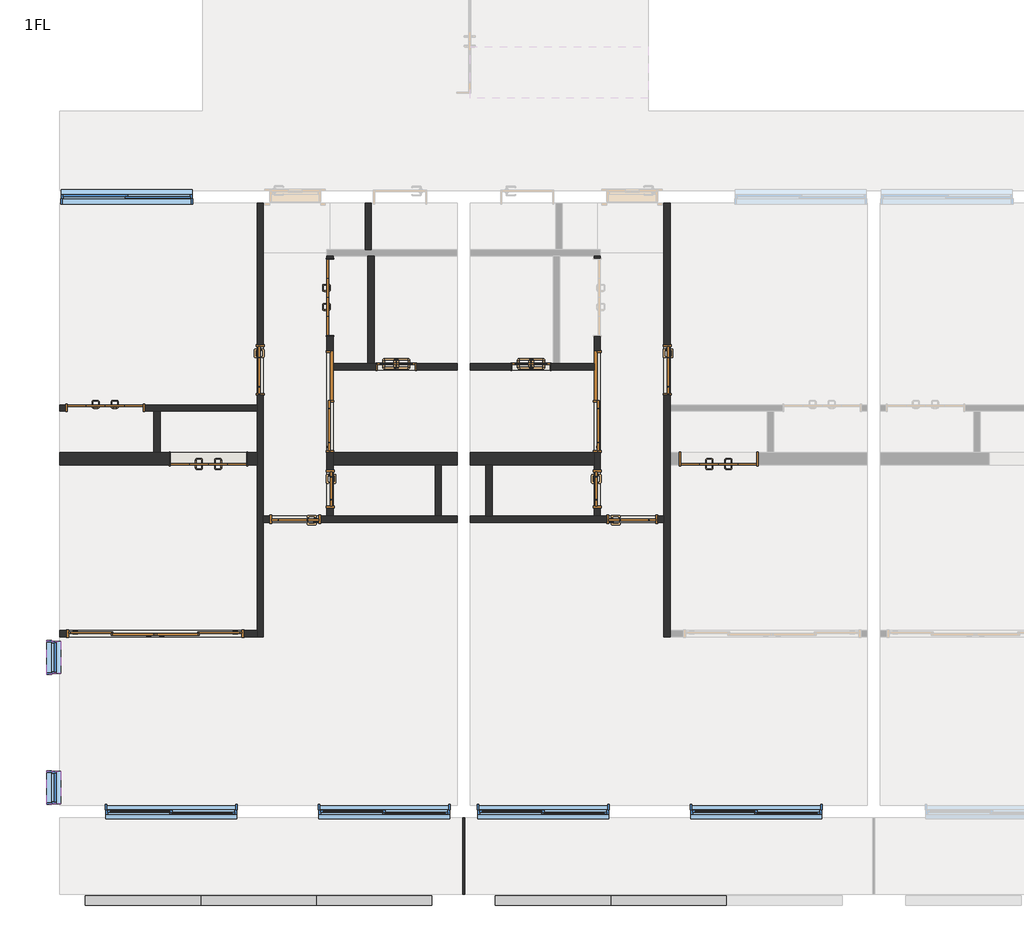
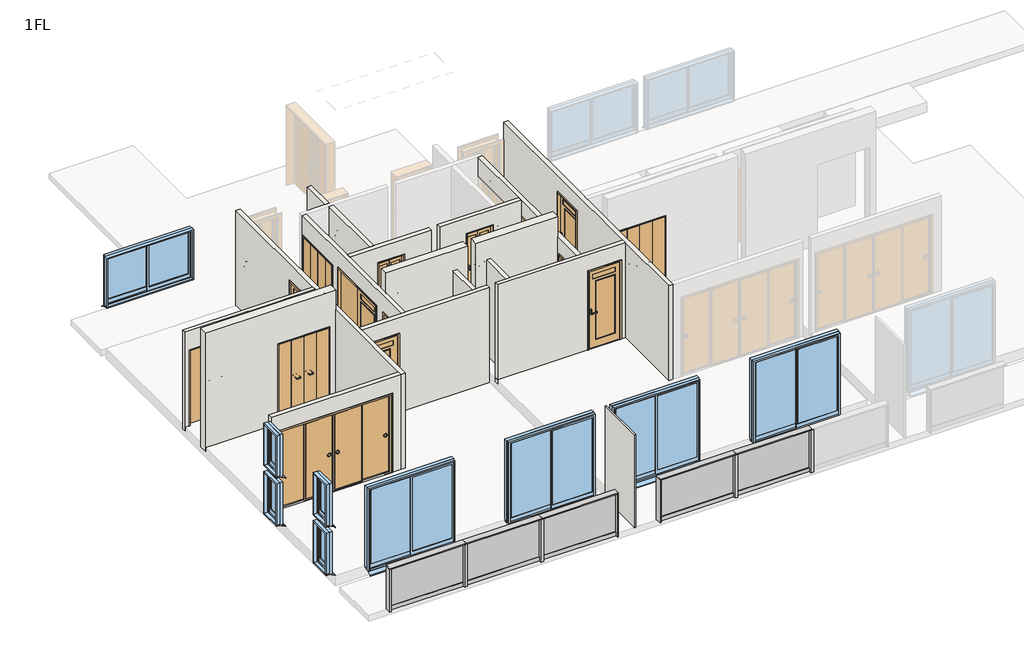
# One storey, part 1 of 3: 19 walls, 15 doors, 12 members, 9 windows, 5 plates.
"""IFC4 building model written with IfcOpenShell, lengths in millimetres."""

from ifc_helpers import new_model, si_unit, frame, origin, place, context, project, spatial, polyline, outline, extrude, faceted_brep, transform, mapped, element, save
from components import door_1200x2000_98cacc9b, door_1200x2000_6a144d60, door_1200x2000_ebe1d490, door_1600x2000_09a7ee27, door_1600x2000_1f5bdc43, door_2800x2000_670b855b, door_600x2000_7f2747f4, door_600x2000_6a266bef, door_600x2000_8ea70a65, door_600x2000_94bb9c3c, door_800x2000_13e9f519, door_800x2000_ccb03061, member_25x150_3f8205e2, member_25x150_e252ec85, member_25x150_8b8be5b9, member_70x150_851c8a9b, plate_5aac5250, plate_977e9fc7, window_2000x1200_fc91d1cf, window_2000x2000_f1ff98da, window_450x1000_e0a5e2da, window_450x1000_1cddc73c

model = new_model("IFC4")

# Units and contexts
model_context = context("Model", 3, world=origin())
ifc_project = project(units=[si_unit("LENGTHUNIT", "METRE", prefix="MILLI")], contexts=[model_context])

# Site, building, storey
site = spatial("IfcSite", under=ifc_project)
building = spatial("IfcBuilding", under=site)
storey = spatial("IfcBuildingStorey", under=building, Name="1FL", Elevation=1000.0)

# Doors
placement = place(None, origin())
door_1200x2000_shape = door_1200x2000_98cacc9b(model_context)
element("IfcDoor", 1, ObjectType="木製折戸 : 1200x2000", at=placement, inside=storey, context=model_context, shape_type="MappedRepresentation", body=[
    mapped(door_1200x2000_shape, transform((-8741.2187246, -9820.1171638, 1100.0), x_axis=(-1.0, 0.0, 0.0), y_axis=(0.0, -1.0, 0.0), z_axis=(0.0, 0.0, 1.0))),
])
door_1200x2000_2_shape = door_1200x2000_6a144d60(model_context)
element("IfcDoor", 2, ObjectType="木製折戸 : 1200x2000", at=placement, inside=storey, context=model_context, shape_type="MappedRepresentation", body=[
    mapped(door_1200x2000_2_shape, transform((-6828.7187246, -7280.1171638, 1000.0), x_axis=(0.0, 1.0, 0.0), y_axis=(-1.0, 0.0, 0.0), z_axis=(0.0, 0.0, 1.0))),
])
element("IfcDoor", 3, ObjectType="木製折戸 : 1200x2000", at=placement, inside=storey, context=model_context, shape_type="MappedRepresentation", body=[
    mapped(door_1200x2000_2_shape, transform((-10366.2187246, -9020.1171638, 1000.0), x_axis=(1.0, 0.0, 0.0), y_axis=(0.0, 1.0, 0.0), z_axis=(0.0, 0.0, 1.0))),
])
door_1200x2000_3_shape = door_1200x2000_ebe1d490(model_context)
element("IfcDoor", 4, ObjectType="木製折戸 : 1200x2000", at=placement, inside=storey, context=model_context, shape_type="MappedRepresentation", body=[
    mapped(door_1200x2000_3_shape, transform((-716.2187246, -9820.1171638, 1100.0), x_axis=(1.0, 0.0, 0.0), y_axis=(0.0, 1.0, 0.0), z_axis=(0.0, 0.0, 1.0))),
])
door_1600x2000_shape = door_1600x2000_09a7ee27(model_context)
element("IfcDoor", 5, ObjectType="片引戸CL2017 : 1600x2000", at=placement, inside=storey, context=model_context, shape_type="MappedRepresentation", body=[
    mapped(door_1600x2000_shape, transform((-6828.7187246, -8920.1171638, 1100.0), x_axis=(0.0, -1.0, 0.0), y_axis=(1.0, 0.0, 0.0), z_axis=(0.0, 0.0, 1.0))),
])
door_1600x2000_2_shape = door_1600x2000_1f5bdc43(model_context)
element("IfcDoor", 6, ObjectType="片引戸CL2017 : 1600x2000", at=placement, inside=storey, context=model_context, shape_type="MappedRepresentation", body=[
    mapped(door_1600x2000_2_shape, transform((-2628.7187246, -8920.1171638, 1100.0), x_axis=(0.0, -1.0, 0.0), y_axis=(1.0, 0.0, 0.0), z_axis=(0.0, 0.0, 1.0))),
])
door_2800x2000_shape = door_2800x2000_670b855b(model_context)
element("IfcDoor", 7, ObjectType="引違い 4 枚 2 溝_襖 : 2800x2000", at=placement, inside=storey, context=model_context, shape_type="MappedRepresentation", body=[
    mapped(door_2800x2000_shape, transform((-9573.1832207, -12570.1171638, 1100.0), x_axis=(1.0, 0.0, 0.0), y_axis=(0.0, 1.0, 0.0), z_axis=(0.0, 0.0, 1.0))),
])
door_600x2000_shape = door_600x2000_7f2747f4(model_context)
element("IfcDoor", 8, ObjectType="片開き戸CL2058 : 600x2000", at=placement, inside=storey, context=model_context, shape_type="MappedRepresentation", body=[
    mapped(door_600x2000_shape, transform((-6828.7187246, -10295.1171638, 1100.0), x_axis=(0.0, -1.0, 0.0), y_axis=(1.0, 0.0, 0.0), z_axis=(0.0, 0.0, 1.0))),
])
door_600x2000_2_shape = door_600x2000_6a266bef(model_context)
element("IfcDoor", 9, ObjectType="浴室折戸 : 600x2000", at=placement, inside=storey, context=model_context, shape_type="MappedRepresentation", body=[
    mapped(door_600x2000_2_shape, transform((-5788.7187246, -8370.1171638, 1100.0), x_axis=(1.0, 0.0, 0.0), y_axis=(0.0, 1.0, 0.0), z_axis=(0.0, 0.0, 1.0))),
])
door_600x2000_3_shape = door_600x2000_8ea70a65(model_context)
element("IfcDoor", 10, ObjectType="片開き戸CL2058 : 600x2000", at=placement, inside=storey, context=model_context, shape_type="MappedRepresentation", body=[
    mapped(door_600x2000_3_shape, transform((-2628.7187246, -10295.1171638, 1100.0), x_axis=(0.0, -1.0, 0.0), y_axis=(1.0, 0.0, 0.0), z_axis=(0.0, 0.0, 1.0))),
])
door_600x2000_4_shape = door_600x2000_94bb9c3c(model_context)
element("IfcDoor", 11, ObjectType="浴室折戸 : 600x2000", at=placement, inside=storey, context=model_context, shape_type="MappedRepresentation", body=[
    mapped(door_600x2000_4_shape, transform((-3668.7187246, -8370.1171638, 1100.0), x_axis=(-1.0, 0.0, 0.0), y_axis=(0.0, -1.0, 0.0), z_axis=(0.0, 0.0, 1.0))),
])
door_800x2000_shape = door_800x2000_13e9f519(model_context)
element("IfcDoor", 12, ObjectType="片開き戸CL2058 : 800x2000", at=placement, inside=storey, context=model_context, shape_type="MappedRepresentation", body=[
    mapped(door_800x2000_shape, transform((-7928.7187246, -8420.1171638, 1100.0), x_axis=(0.0, -1.0, 0.0), y_axis=(1.0, 0.0, 0.0), z_axis=(0.0, 0.0, 1.0))),
])
element("IfcDoor", 13, ObjectType="片開き戸CL2058 : 800x2000", at=placement, inside=storey, context=model_context, shape_type="MappedRepresentation", body=[
    mapped(door_800x2000_shape, transform((-2078.7187246, -10770.1171638, 1100.0), x_axis=(1.0, 0.0, 0.0), y_axis=(0.0, 1.0, 0.0), z_axis=(0.0, 0.0, 1.0))),
])
door_800x2000_2_shape = door_800x2000_ccb03061(model_context)
element("IfcDoor", 14, ObjectType="片開き戸CL2058 : 800x2000", at=placement, inside=storey, context=model_context, shape_type="MappedRepresentation", body=[
    mapped(door_800x2000_2_shape, transform((-7378.7187246, -10770.1171638, 1100.0), x_axis=(-1.0, 0.0, 0.0), y_axis=(0.0, -1.0, 0.0), z_axis=(0.0, 0.0, 1.0))),
])
element("IfcDoor", 15, ObjectType="片開き戸CL2058 : 800x2000", at=placement, inside=storey, context=model_context, shape_type="MappedRepresentation", body=[
    mapped(door_800x2000_2_shape, transform((-1528.7187246, -8420.1171638, 1100.0), x_axis=(0.0, -1.0, 0.0), y_axis=(1.0, 0.0, 0.0), z_axis=(0.0, 0.0, 1.0))),
])

# Members
member_25x150_shape = member_25x150_3f8205e2(model_context)
element("IfcMember", 16, ObjectType="長方形のマリオン : 25x150", at=placement, inside=storey, context=model_context, shape_type="MappedRepresentation", body=[
    mapped(member_25x150_shape, transform((-5228.7187246, -16770.1171638, 1000.0), x_axis=(1.0, 0.0, 0.0), y_axis=(0.0, -1.0, 0.0), z_axis=(0.0, 0.0, -1.0))),
])
element("IfcMember", 17, ObjectType="長方形のマリオン : 25x150", at=placement, inside=storey, context=model_context, shape_type="MappedRepresentation", body=[
    mapped(member_25x150_shape, transform((-10678.7187246, -16770.1171638, 2075.0), x_axis=(-1.0, 0.0, 0.0), y_axis=(0.0, -1.0, 0.0), z_axis=(0.0, 0.0, 1.0))),
])
element("IfcMember", 18, ObjectType="長方形のマリオン : 25x150", at=placement, inside=storey, context=model_context, shape_type="MappedRepresentation", body=[
    mapped(member_25x150_shape, transform((-4228.7187246, -16770.1171638, 2075.0), x_axis=(-1.0, 0.0, 0.0), y_axis=(0.0, -1.0, 0.0), z_axis=(0.0, 0.0, 1.0))),
])
member_25x150_2_shape = member_25x150_e252ec85(model_context)
element("IfcMember", 19, ObjectType="長方形のマリオン : 25x150", at=placement, inside=storey, context=model_context, shape_type="MappedRepresentation", body=[
    mapped(member_25x150_2_shape, transform((-5228.7187246, -16770.1171638, 2100.0), x_axis=(0.0, 0.0, 1.0), y_axis=(0.0, -1.0, 0.0), z_axis=(1.0, 0.0, 0.0))),
])
element("IfcMember", 20, ObjectType="長方形のマリオン : 25x150", at=placement, inside=storey, context=model_context, shape_type="MappedRepresentation", body=[
    mapped(member_25x150_2_shape, transform((-8862.0520579, -16770.1171638, 2100.0), x_axis=(0.0, 0.0, 1.0), y_axis=(0.0, -1.0, 0.0), z_axis=(1.0, 0.0, 0.0))),
])
element("IfcMember", 21, ObjectType="長方形のマリオン : 25x150", at=placement, inside=storey, context=model_context, shape_type="MappedRepresentation", body=[
    mapped(member_25x150_2_shape, transform((-2412.0520579, -16770.1171638, 2100.0), x_axis=(0.0, 0.0, 1.0), y_axis=(0.0, -1.0, 0.0), z_axis=(1.0, 0.0, 0.0))),
])
member_25x150_3_shape = member_25x150_8b8be5b9(model_context)
element("IfcMember", 22, ObjectType="長方形のマリオン : 25x150", at=placement, inside=storey, context=model_context, shape_type="MappedRepresentation", body=[
    mapped(member_25x150_3_shape, transform((-7045.3853914, -16770.1171638, 2100.0), x_axis=(0.0, 0.0, 1.0), y_axis=(0.0, -1.0, 0.0), z_axis=(1.0, 0.0, 0.0))),
])
element("IfcMember", 23, ObjectType="長方形のマリオン : 25x150", at=placement, inside=storey, context=model_context, shape_type="MappedRepresentation", body=[
    mapped(member_25x150_3_shape, transform((-595.3853914, -16770.1171638, 2100.0), x_axis=(0.0, 0.0, 1.0), y_axis=(0.0, -1.0, 0.0), z_axis=(1.0, 0.0, 0.0))),
])
member_70x150_shape = member_70x150_851c8a9b(model_context)
element("IfcMember", 24, ObjectType="長方形のマリオン : 70x150", at=placement, inside=storey, context=model_context, shape_type="MappedRepresentation", body=[
    mapped(member_70x150_shape, transform((-8862.0520579, -16770.1171638, 1000.0), x_axis=(1.0, 0.0, 0.0), y_axis=(0.0, -1.0, 0.0), z_axis=(0.0, 0.0, -1.0))),
])
element("IfcMember", 25, ObjectType="長方形のマリオン : 70x150", at=placement, inside=storey, context=model_context, shape_type="MappedRepresentation", body=[
    mapped(member_70x150_shape, transform((-7045.3853914, -16770.1171638, 1000.0), x_axis=(1.0, 0.0, 0.0), y_axis=(0.0, -1.0, 0.0), z_axis=(0.0, 0.0, -1.0))),
])
element("IfcMember", 26, ObjectType="長方形のマリオン : 70x150", at=placement, inside=storey, context=model_context, shape_type="MappedRepresentation", body=[
    mapped(member_70x150_shape, transform((-2412.0520579, -16770.1171638, 1000.0), x_axis=(1.0, 0.0, 0.0), y_axis=(0.0, -1.0, 0.0), z_axis=(0.0, 0.0, -1.0))),
])
element("IfcMember", 27, ObjectType="長方形のマリオン : 70x150", at=placement, inside=storey, context=model_context, shape_type="MappedRepresentation", body=[
    mapped(member_70x150_shape, transform((-595.3853914, -16770.1171638, 1000.0), x_axis=(1.0, 0.0, 0.0), y_axis=(0.0, -1.0, 0.0), z_axis=(0.0, 0.0, -1.0))),
])

# Plates
plate_shape = plate_5aac5250(model_context)
element("IfcPlate", 28, ObjectType="r パネル FIX 下框付 : 框 H100", at=placement, inside=storey, context=model_context, shape_type="MappedRepresentation", body=[
    mapped(plate_shape, transform((-9775.3853913, -16770.1171638, 1000.0), x_axis=(1.0, 0.0, 0.0), y_axis=(0.0, 1.0, 0.0), z_axis=(0.0, 0.0, 1.0))),
])
element("IfcPlate", 29, ObjectType="r パネル FIX 下框付 : 框 H100", at=placement, inside=storey, context=model_context, shape_type="MappedRepresentation", body=[
    mapped(plate_shape, transform((-6132.052058, -16770.1171638, 1000.0), x_axis=(1.0, 0.0, 0.0), y_axis=(0.0, 1.0, 0.0), z_axis=(0.0, 0.0, 1.0))),
])
element("IfcPlate", 30, ObjectType="r パネル FIX 下框付 : 框 H100", at=placement, inside=storey, context=model_context, shape_type="MappedRepresentation", body=[
    mapped(plate_shape, transform((-3325.3853913, -16770.1171638, 1000.0), x_axis=(1.0, 0.0, 0.0), y_axis=(0.0, 1.0, 0.0), z_axis=(0.0, 0.0, 1.0))),
])
plate_2_shape = plate_977e9fc7(model_context)
element("IfcPlate", 31, ObjectType="r パネル FIX 下框付 : 框 H100", at=placement, inside=storey, context=model_context, shape_type="MappedRepresentation", body=[
    mapped(plate_2_shape, transform((-7953.7187246, -16770.1171638, 1000.0), x_axis=(1.0, 0.0, 0.0), y_axis=(0.0, 1.0, 0.0), z_axis=(0.0, 0.0, 1.0))),
])
element("IfcPlate", 32, ObjectType="r パネル FIX 下框付 : 框 H100", at=placement, inside=storey, context=model_context, shape_type="MappedRepresentation", body=[
    mapped(plate_2_shape, transform((-1503.7187246, -16770.1171638, 1000.0), x_axis=(1.0, 0.0, 0.0), y_axis=(0.0, 1.0, 0.0), z_axis=(0.0, 0.0, 1.0))),
])

# Walls
element("IfcWall", 33, ObjectType="(R)RC200", at=placement, inside=storey, context=model_context, shape_type="Brep", body=[
    faceted_brep([(-11078.7187246, -9920.1171638, 1000.0), (-7978.7187246, -9920.1171638, 1000.0), (-7978.7187246, -9920.1171638, 4000.0), (-11078.7187246, -9920.1171638, 4000.0), (-9361.2187246, -9920.1171638, 3120.0), (-8121.2187246, -9920.1171638, 3120.0), (-8121.2187246, -9920.1171638, 1100.0), (-9361.2187246, -9920.1171638, 1100.0), (-11078.7187246, -9720.1171638, 1000.0), (-11078.7187246, -9720.1171638, 4000.0), (-7978.7187246, -9720.1171638, 4000.0), (-7978.7187246, -9720.1171638, 1000.0), (-9503.7187246, -9720.1171638, 1000.0), (-9603.7187246, -9720.1171638, 1000.0), (-9361.2187246, -9720.1171638, 3120.0), (-9361.2187246, -9720.1171638, 1100.0), (-8121.2187246, -9720.1171638, 1100.0), (-8121.2187246, -9720.1171638, 3120.0)], [[[0, 1, 2, 3], [4, 5, 6, 7]], [[8, 9, 10, 11, 12, 13], [14, 15, 16, 17]], [[1, 0, 8, 13, 12, 11]], [[3, 2, 10, 9]], [[0, 3, 9, 8]], [[2, 1, 11, 10]], [[15, 14, 4, 7]], [[16, 15, 7, 6]], [[17, 16, 6, 5]], [[14, 17, 5, 4]]]),
])
element("IfcWall", 34, ObjectType="(R)RC200", at=placement, inside=storey, context=model_context, shape_type="Brep", body=[
    faceted_brep([(-6778.7187246, -9920.1171638, 1000.0), (-5178.7187246, -9920.1171638, 1000.0), (-5078.7187246, -9920.1171638, 1000.0), (-4828.7187246, -9920.1171638, 1000.0), (-4828.7187246, -9920.1171638, 4000.0), (-6778.7187246, -9920.1171638, 4000.0), (-6778.7187246, -9720.1171638, 1000.0), (-6778.7187246, -9720.1171638, 1100.0), (-6778.7187246, -9720.1171638, 3100.0), (-6778.7187246, -9720.1171638, 4000.0), (-4828.7187246, -9720.1171638, 4000.0), (-4828.7187246, -9720.1171638, 1000.0)], [[[0, 1, 2, 3, 4, 5]], [[6, 7, 8, 9, 10, 11]], [[3, 2, 1, 0, 6, 11]], [[5, 4, 10, 9]], [[4, 3, 11, 10]], [[0, 5, 9, 8, 7, 6]]]),
])
element("IfcWall", 35, ObjectType="(R)RC200", at=placement, inside=storey, context=model_context, shape_type="Brep", body=[
    faceted_brep([(-2678.7187246, -9720.1171638, 1000.0), (-4628.7187246, -9720.1171638, 1000.0), (-4628.7187246, -9720.1171638, 4000.0), (-2678.7187246, -9720.1171638, 4000.0), (-2678.7187246, -9720.1171638, 3100.0), (-2678.7187246, -9720.1171638, 1100.0), (-2678.7187246, -9920.1171638, 1000.0), (-2678.7187246, -9920.1171638, 4000.0), (-4628.7187246, -9920.1171638, 4000.0), (-4628.7187246, -9920.1171638, 1000.0), (-4378.7187246, -9920.1171638, 1000.0), (-4278.7187246, -9920.1171638, 1000.0)], [[[0, 1, 2, 3, 4, 5]], [[6, 7, 8, 9, 10, 11]], [[1, 0, 6, 11, 10, 9]], [[3, 2, 8, 7]], [[2, 1, 9, 8]], [[0, 5, 4, 3, 7, 6]]]),
])
element("IfcWall", 36, ObjectType="(F)30", at=placement, inside=storey, context=model_context, shape_type="SweptSolid", body=[
    extrude(outline(polyline([(-4743.7187246, -16670.1171638), (-4743.7187246, -15470.1171638), (-4713.7187246, -15470.1171638), (-4713.7187246, -16670.1171638), (-4743.7187246, -16670.1171638)])), frame((0.0, 0.0, 950.0), z_axis=(0.0, 0.0, 1.0), x_axis=(1.0, 0.0, 0.0)), (0.0, 0.0, 1.0), 2350.0),
])
element("IfcWall", 37, ObjectType="(L1)LGS100", at=placement, inside=storey, context=model_context, shape_type="Brep", body=[
    faceted_brep([(-7878.7187246, -12620.1171638, 1000.0), (-7878.7187246, -10820.1171638, 1000.0), (-7878.7187246, -10720.1171638, 1000.0), (-7878.7187246, -5800.1171638, 1000.0), (-7878.7187246, -5800.1171638, 3500.0), (-7878.7187246, -10720.1171638, 3500.0), (-7878.7187246, -10820.1171638, 3500.0), (-7878.7187246, -12620.1171638, 3500.0), (-7878.7187246, -8820.1171638, 1100.0), (-7878.7187246, -8820.1171638, 3100.0), (-7878.7187246, -8020.1171638, 3100.0), (-7878.7187246, -8020.1171638, 1100.0), (-7978.7187246, -12620.1171638, 1000.0), (-7978.7187246, -12620.1171638, 3500.0), (-7978.7187246, -12520.1171638, 3500.0), (-7978.7187246, -9070.1171638, 3500.0), (-7978.7187246, -8970.1171638, 3500.0), (-7978.7187246, -5800.1171638, 3500.0), (-7978.7187246, -5800.1171638, 1000.0), (-7978.7187246, -8970.1171638, 1000.0), (-7978.7187246, -9070.1171638, 1000.0), (-7978.7187246, -9720.1171638, 1000.0), (-7978.7187246, -9920.1171638, 1000.0), (-7978.7187246, -12520.1171638, 1000.0), (-7978.7187246, -8820.1171638, 1100.0), (-7978.7187246, -8020.1171638, 1100.0), (-7978.7187246, -8020.1171638, 3100.0), (-7978.7187246, -8820.1171638, 3100.0)], [[[0, 1, 2, 3, 4, 5, 6, 7], [8, 9, 10, 11]], [[12, 13, 14, 15, 16, 17, 18, 19, 20, 21, 22, 23], [24, 25, 26, 27]], [[3, 2, 1, 0, 12, 23, 22, 21, 20, 19, 18]], [[7, 6, 5, 4, 17, 16, 15, 14, 13]], [[4, 3, 18, 17]], [[0, 7, 13, 12]], [[9, 8, 24, 27]], [[10, 9, 27, 26]], [[11, 10, 26, 25]], [[8, 11, 25, 24]]]),
])
element("IfcWall", 38, ObjectType="(L1)LGS100", at=placement, inside=storey, context=model_context, shape_type="Brep", body=[
    faceted_brep([(-6778.7187246, -6630.1171638, 3500.0), (-6778.7187246, -8320.1171638, 3500.0), (-6778.7187246, -8420.1171638, 3500.0), (-6778.7187246, -10720.1171638, 3500.0), (-6778.7187246, -10720.1171638, 1000.0), (-6778.7187246, -9920.1171638, 1000.0), (-6778.7187246, -9720.1171638, 1000.0), (-6778.7187246, -8420.1171638, 1000.0), (-6778.7187246, -8320.1171638, 1000.0), (-6778.7187246, -7900.1171638, 1000.0), (-6778.7187246, -7900.1171638, 3020.0), (-6778.7187246, -6660.1171638, 3020.0), (-6778.7187246, -6660.1171638, 1000.0), (-6778.7187246, -6630.1171638, 1000.0), (-6778.7187246, -10595.1171638, 1100.0), (-6778.7187246, -10595.1171638, 3100.0), (-6778.7187246, -9995.1171638, 3100.0), (-6778.7187246, -9995.1171638, 1100.0), (-6778.7187246, -9720.1171638, 1100.0), (-6778.7187246, -9720.1171638, 3100.0), (-6778.7187246, -8120.1171638, 3100.0), (-6778.7187246, -8120.1171638, 1100.0), (-6878.7187246, -10720.1171638, 3500.0), (-6878.7187246, -6630.1171638, 3500.0), (-6878.7187246, -6630.1171638, 1000.0), (-6878.7187246, -6660.1171638, 1000.0), (-6878.7187246, -6660.1171638, 3020.0), (-6878.7187246, -7900.1171638, 3020.0), (-6878.7187246, -7900.1171638, 1000.0), (-6878.7187246, -10720.1171638, 1000.0), (-6878.7187246, -10595.1171638, 1100.0), (-6878.7187246, -9995.1171638, 1100.0), (-6878.7187246, -9995.1171638, 3100.0), (-6878.7187246, -10595.1171638, 3100.0), (-6878.7187246, -9720.1171638, 3100.0), (-6878.7187246, -9720.1171638, 1100.0), (-6878.7187246, -8120.1171638, 1100.0), (-6878.7187246, -8120.1171638, 3100.0)], [[[0, 1, 2, 3, 4, 5, 6, 7, 8, 9, 10, 11, 12, 13], [14, 15, 16, 17], [18, 19, 20, 21]], [[22, 23, 24, 25, 26, 27, 28, 29], [30, 31, 32, 33], [34, 35, 36, 37]], [[4, 29, 28, 9, 8, 7, 6, 5]], [[24, 13, 12, 25]], [[3, 2, 1, 0, 23, 22]], [[4, 3, 22, 29]], [[0, 13, 24, 23]], [[15, 14, 30, 33]], [[16, 15, 33, 32]], [[17, 16, 32, 31]], [[14, 17, 31, 30]], [[18, 35, 34, 19]], [[19, 34, 37, 20]], [[20, 37, 36, 21]], [[35, 18, 21, 36]], [[12, 11, 26, 25]], [[10, 9, 28, 27]], [[11, 10, 27, 26]]]),
])
element("IfcWall", 39, ObjectType="(L1)LGS100", at=placement, inside=storey, context=model_context, shape_type="SweptSolid", body=[
    extrude(outline(polyline([(-6178.7187246, -5800.1171638), (-6178.7187246, -6530.1171638), (-6278.7187246, -6530.1171638), (-6278.7187246, -5800.1171638), (-6178.7187246, -5800.1171638)])), frame((0.0, 0.0, 1000.0), z_axis=(0.0, 0.0, 1.0), x_axis=(1.0, 0.0, 0.0)), (0.0, 0.0, 1.0), 2500.0),
])
element("IfcWall", 40, ObjectType="(L1)LGS100", at=placement, inside=storey, context=model_context, shape_type="SweptSolid", body=[
    extrude(outline(polyline([(-6138.7187246, -6630.1171638), (-6138.7187246, -8320.1171638), (-6238.7187246, -8320.1171638), (-6238.7187246, -6630.1171638), (-6138.7187246, -6630.1171638)])), frame((0.0, 0.0, 1000.0), z_axis=(0.0, 0.0, 1.0), x_axis=(1.0, 0.0, 0.0)), (0.0, 0.0, 1.0), 2500.0),
])
element("IfcWall", 41, ObjectType="(L1)LGS100", at=placement, inside=storey, context=model_context, shape_type="Brep", body=[
    faceted_brep([(-6778.7187246, -8420.1171638, 1000.0), (-4828.7187246, -8420.1171638, 1000.0), (-4828.7187246, -8420.1171638, 3500.0), (-6778.7187246, -8420.1171638, 3500.0), (-5468.7187246, -8420.1171638, 3120.0), (-5468.7187246, -8420.1171638, 1100.0), (-6108.7187246, -8420.1171638, 1100.0), (-6108.7187246, -8420.1171638, 3120.0), (-6778.7187246, -8320.1171638, 1000.0), (-6778.7187246, -8320.1171638, 3500.0), (-6238.7187246, -8320.1171638, 3500.0), (-6138.7187246, -8320.1171638, 3500.0), (-4828.7187246, -8320.1171638, 3500.0), (-4828.7187246, -8320.1171638, 1000.0), (-6138.7187246, -8320.1171638, 1000.0), (-6238.7187246, -8320.1171638, 1000.0), (-5468.7187246, -8320.1171638, 3120.0), (-6108.7187246, -8320.1171638, 3120.0), (-6108.7187246, -8320.1171638, 1100.0), (-5468.7187246, -8320.1171638, 1100.0)], [[[0, 1, 2, 3], [4, 5, 6, 7]], [[8, 9, 10, 11, 12, 13, 14, 15], [16, 17, 18, 19]], [[1, 0, 8, 15, 14, 13]], [[3, 2, 12, 11, 10, 9]], [[2, 1, 13, 12]], [[0, 3, 9, 8]], [[5, 4, 16, 19]], [[6, 5, 19, 18]], [[7, 6, 18, 17]], [[4, 7, 17, 16]]]),
])
element("IfcWall", 42, ObjectType="(L1)LGS100", at=placement, inside=storey, context=model_context, shape_type="Brep", body=[
    faceted_brep([(-7878.7187246, -10820.1171638, 1000.0), (-4828.7187246, -10820.1171638, 1000.0), (-4828.7187246, -10820.1171638, 3500.0), (-7878.7187246, -10820.1171638, 3500.0), (-7778.7187246, -10820.1171638, 1100.0), (-7778.7187246, -10820.1171638, 3100.0), (-6978.7187246, -10820.1171638, 3100.0), (-6978.7187246, -10820.1171638, 1100.0), (-7878.7187246, -10720.1171638, 1000.0), (-7878.7187246, -10720.1171638, 3500.0), (-6878.7187246, -10720.1171638, 3500.0), (-6778.7187246, -10720.1171638, 3500.0), (-5178.7187246, -10720.1171638, 3500.0), (-5078.7187246, -10720.1171638, 3500.0), (-4828.7187246, -10720.1171638, 3500.0), (-4828.7187246, -10720.1171638, 1000.0), (-5078.7187246, -10720.1171638, 1000.0), (-5178.7187246, -10720.1171638, 1000.0), (-6778.7187246, -10720.1171638, 1000.0), (-6878.7187246, -10720.1171638, 1000.0), (-7778.7187246, -10720.1171638, 1100.0), (-6978.7187246, -10720.1171638, 1100.0), (-6978.7187246, -10720.1171638, 3100.0), (-7778.7187246, -10720.1171638, 3100.0)], [[[0, 1, 2, 3], [4, 5, 6, 7]], [[8, 9, 10, 11, 12, 13, 14, 15, 16, 17, 18, 19], [20, 21, 22, 23]], [[1, 0, 8, 19, 18, 17, 16, 15]], [[3, 2, 14, 13, 12, 11, 10, 9]], [[2, 1, 15, 14]], [[0, 3, 9, 8]], [[5, 4, 20, 23]], [[6, 5, 23, 22]], [[7, 6, 22, 21]], [[4, 7, 21, 20]]]),
])
element("IfcWall", 43, ObjectType="(L1)LGS100", at=placement, inside=storey, context=model_context, shape_type="SweptSolid", body=[
    extrude(outline(polyline([(-5078.7187246, -9920.1171638), (-5078.7187246, -10720.1171638), (-5178.7187246, -10720.1171638), (-5178.7187246, -9920.1171638), (-5078.7187246, -9920.1171638)])), frame((0.0, 0.0, 1000.0), z_axis=(0.0, 0.0, 1.0), x_axis=(1.0, 0.0, 0.0)), (0.0, 0.0, 1.0), 2500.0),
])
element("IfcWall", 44, ObjectType="(L1)LGS100", at=placement, inside=storey, context=model_context, shape_type="Brep", body=[
    faceted_brep([(-11078.7187246, -9070.1171638, 1000.0), (-10986.2187246, -9070.1171638, 1000.0), (-10986.2187246, -9070.1171638, 3020.0), (-9746.2187246, -9070.1171638, 3020.0), (-9746.2187246, -9070.1171638, 1000.0), (-9603.7187246, -9070.1171638, 1000.0), (-9503.7187246, -9070.1171638, 1000.0), (-7978.7187246, -9070.1171638, 1000.0), (-7978.7187246, -9070.1171638, 3500.0), (-9503.7187246, -9070.1171638, 3500.0), (-9603.7187246, -9070.1171638, 3500.0), (-11078.7187246, -9070.1171638, 3500.0), (-10986.2187246, -8970.1171638, 3020.0), (-10986.2187246, -8970.1171638, 1000.0), (-11078.7187246, -8970.1171638, 1000.0), (-11078.7187246, -8970.1171638, 3500.0), (-7978.7187246, -8970.1171638, 3500.0), (-7978.7187246, -8970.1171638, 1000.0), (-9746.2187246, -8970.1171638, 1000.0), (-9746.2187246, -8970.1171638, 3020.0)], [[[0, 1, 2, 3, 4, 5, 6, 7, 8, 9, 10, 11]], [[12, 13, 14, 15, 16, 17, 18, 19]], [[18, 17, 7, 6, 5, 4]], [[14, 13, 1, 0]], [[11, 10, 9, 8, 16, 15]], [[0, 11, 15, 14]], [[8, 7, 17, 16]], [[4, 3, 19, 18]], [[2, 1, 13, 12]], [[3, 2, 12, 19]]]),
])
element("IfcWall", 45, ObjectType="(L1)LGS100", at=placement, inside=storey, context=model_context, shape_type="SweptSolid", body=[
    extrude(outline(polyline([(-9503.7187246, -9070.1171638), (-9503.7187246, -9720.1171638), (-9603.7187246, -9720.1171638), (-9603.7187246, -9070.1171638), (-9503.7187246, -9070.1171638)])), frame((0.0, 0.0, 1000.0), z_axis=(0.0, 0.0, 1.0), x_axis=(1.0, 0.0, 0.0)), (0.0, 0.0, 1.0), 2500.0),
])
element("IfcWall", 46, ObjectType="(L1)LGS100", at=placement, inside=storey, context=model_context, shape_type="SweptSolid", body=[
    extrude(outline(polyline([(1000.0, -11078.7187246), (1000.0, -7978.7187246), (3500.0, -7978.7187246), (3500.0, -11078.7187246), (1000.0, -11078.7187246)]), holes=[polyline([(3100.0, -8178.7187246), (1100.0, -8178.7187246), (1100.0, -10978.7187246), (3100.0, -10978.7187246), (3100.0, -8178.7187246)])]), frame((0.0, -12620.1171638, 0.0), z_axis=(0.0, 1.0, 0.0), x_axis=(0.0, 0.0, 1.0)), (0.0, 0.0, 1.0), 100.0),
])
element("IfcWall", 47, ObjectType="(L1)LGS100", at=placement, inside=storey, context=model_context, shape_type="Brep", body=[
    faceted_brep([(-1478.7187246, -12620.1171638, 1000.0), (-1478.7187246, -12520.1171638, 1000.0), (-1478.7187246, -9920.1171638, 1000.0), (-1478.7187246, -9720.1171638, 1000.0), (-1478.7187246, -9070.1171638, 1000.0), (-1478.7187246, -8970.1171638, 1000.0), (-1478.7187246, -5800.1171638, 1000.0), (-1478.7187246, -5800.1171638, 3500.0), (-1478.7187246, -8970.1171638, 3500.0), (-1478.7187246, -9070.1171638, 3500.0), (-1478.7187246, -12520.1171638, 3500.0), (-1478.7187246, -12620.1171638, 3500.0), (-1478.7187246, -8820.1171638, 1100.0), (-1478.7187246, -8820.1171638, 3100.0), (-1478.7187246, -8020.1171638, 3100.0), (-1478.7187246, -8020.1171638, 1100.0), (-1578.7187246, -12620.1171638, 1000.0), (-1578.7187246, -12620.1171638, 3500.0), (-1578.7187246, -10820.1171638, 3500.0), (-1578.7187246, -10720.1171638, 3500.0), (-1578.7187246, -5800.1171638, 3500.0), (-1578.7187246, -5800.1171638, 1000.0), (-1578.7187246, -10720.1171638, 1000.0), (-1578.7187246, -10820.1171638, 1000.0), (-1578.7187246, -8820.1171638, 1100.0), (-1578.7187246, -8020.1171638, 1100.0), (-1578.7187246, -8020.1171638, 3100.0), (-1578.7187246, -8820.1171638, 3100.0)], [[[0, 1, 2, 3, 4, 5, 6, 7, 8, 9, 10, 11], [12, 13, 14, 15]], [[16, 17, 18, 19, 20, 21, 22, 23], [24, 25, 26, 27]], [[6, 5, 4, 3, 2, 1, 0, 16, 23, 22, 21]], [[11, 10, 9, 8, 7, 20, 19, 18, 17]], [[13, 12, 24, 27]], [[14, 13, 27, 26]], [[15, 14, 26, 25]], [[12, 15, 25, 24]], [[0, 11, 17, 16]], [[7, 6, 21, 20]]]),
])
element("IfcWall", 48, ObjectType="(L1)LGS100", at=placement, inside=storey, context=model_context, shape_type="Brep", body=[
    faceted_brep([(-2578.7187246, -6630.1171638, 3500.0), (-2578.7187246, -10720.1171638, 3500.0), (-2578.7187246, -10720.1171638, 1000.0), (-2578.7187246, -7900.1171638, 1000.0), (-2578.7187246, -7900.1171638, 3020.0), (-2578.7187246, -6660.1171638, 3020.0), (-2578.7187246, -6660.1171638, 1000.0), (-2578.7187246, -6630.1171638, 1000.0), (-2578.7187246, -10595.1171638, 1100.0), (-2578.7187246, -10595.1171638, 3100.0), (-2578.7187246, -9995.1171638, 3100.0), (-2578.7187246, -9995.1171638, 1100.0), (-2578.7187246, -9720.1171638, 1100.0), (-2578.7187246, -9720.1171638, 3100.0), (-2578.7187246, -8120.1171638, 3100.0), (-2578.7187246, -8120.1171638, 1100.0), (-2678.7187246, -10720.1171638, 3500.0), (-2678.7187246, -8420.1171638, 3500.0), (-2678.7187246, -8320.1171638, 3500.0), (-2678.7187246, -6630.1171638, 3500.0), (-2678.7187246, -6630.1171638, 1000.0), (-2678.7187246, -6660.1171638, 1000.0), (-2678.7187246, -6660.1171638, 3020.0), (-2678.7187246, -7900.1171638, 3020.0), (-2678.7187246, -7900.1171638, 1000.0), (-2678.7187246, -8320.1171638, 1000.0), (-2678.7187246, -8420.1171638, 1000.0), (-2678.7187246, -9720.1171638, 1000.0), (-2678.7187246, -9920.1171638, 1000.0), (-2678.7187246, -10720.1171638, 1000.0), (-2678.7187246, -10595.1171638, 1100.0), (-2678.7187246, -9995.1171638, 1100.0), (-2678.7187246, -9995.1171638, 3100.0), (-2678.7187246, -10595.1171638, 3100.0), (-2678.7187246, -9720.1171638, 3100.0), (-2678.7187246, -9720.1171638, 1100.0), (-2678.7187246, -8120.1171638, 1100.0), (-2678.7187246, -8120.1171638, 3100.0)], [[[0, 1, 2, 3, 4, 5, 6, 7], [8, 9, 10, 11], [12, 13, 14, 15]], [[16, 17, 18, 19, 20, 21, 22, 23, 24, 25, 26, 27, 28, 29], [30, 31, 32, 33], [34, 35, 36, 37]], [[6, 21, 20, 7]], [[24, 3, 2, 29, 28, 27, 26, 25]], [[1, 0, 19, 18, 17, 16]], [[9, 8, 30, 33]], [[10, 9, 33, 32]], [[11, 10, 32, 31]], [[8, 11, 31, 30]], [[12, 35, 34, 13]], [[13, 34, 37, 14]], [[14, 37, 36, 15]], [[35, 12, 15, 36]], [[6, 5, 22, 21]], [[4, 3, 24, 23]], [[5, 4, 23, 22]], [[2, 1, 16, 29]], [[0, 7, 20, 19]]]),
])
element("IfcWall", 49, ObjectType="(L1)LGS100", at=placement, inside=storey, context=model_context, shape_type="Brep", body=[
    faceted_brep([(-2678.7187246, -8320.1171638, 1000.0), (-3218.7187246, -8320.1171638, 1000.0), (-3318.7187246, -8320.1171638, 1000.0), (-4628.7187246, -8320.1171638, 1000.0), (-4628.7187246, -8320.1171638, 3500.0), (-3318.7187246, -8320.1171638, 3500.0), (-3218.7187246, -8320.1171638, 3500.0), (-2678.7187246, -8320.1171638, 3500.0), (-3988.7187246, -8320.1171638, 3120.0), (-3988.7187246, -8320.1171638, 1100.0), (-3348.7187246, -8320.1171638, 1100.0), (-3348.7187246, -8320.1171638, 3120.0), (-2678.7187246, -8420.1171638, 1000.0), (-2678.7187246, -8420.1171638, 3500.0), (-4628.7187246, -8420.1171638, 3500.0), (-4628.7187246, -8420.1171638, 1000.0), (-3988.7187246, -8420.1171638, 3120.0), (-3348.7187246, -8420.1171638, 3120.0), (-3348.7187246, -8420.1171638, 1100.0), (-3988.7187246, -8420.1171638, 1100.0)], [[[0, 1, 2, 3, 4, 5, 6, 7], [8, 9, 10, 11]], [[12, 13, 14, 15], [16, 17, 18, 19]], [[3, 2, 1, 0, 12, 15]], [[7, 6, 5, 4, 14, 13]], [[9, 8, 16, 19]], [[10, 9, 19, 18]], [[11, 10, 18, 17]], [[8, 11, 17, 16]], [[4, 3, 15, 14]], [[0, 7, 13, 12]]]),
])
element("IfcWall", 50, ObjectType="(L1)LGS100", at=placement, inside=storey, context=model_context, shape_type="Brep", body=[
    faceted_brep([(-1578.7187246, -10720.1171638, 1000.0), (-2578.7187246, -10720.1171638, 1000.0), (-2678.7187246, -10720.1171638, 1000.0), (-4278.7187246, -10720.1171638, 1000.0), (-4378.7187246, -10720.1171638, 1000.0), (-4628.7187246, -10720.1171638, 1000.0), (-4628.7187246, -10720.1171638, 3500.0), (-4378.7187246, -10720.1171638, 3500.0), (-4278.7187246, -10720.1171638, 3500.0), (-2678.7187246, -10720.1171638, 3500.0), (-2578.7187246, -10720.1171638, 3500.0), (-1578.7187246, -10720.1171638, 3500.0), (-1678.7187246, -10720.1171638, 1100.0), (-1678.7187246, -10720.1171638, 3100.0), (-2478.7187246, -10720.1171638, 3100.0), (-2478.7187246, -10720.1171638, 1100.0), (-1578.7187246, -10820.1171638, 1000.0), (-1578.7187246, -10820.1171638, 3500.0), (-4628.7187246, -10820.1171638, 3500.0), (-4628.7187246, -10820.1171638, 1000.0), (-1678.7187246, -10820.1171638, 1100.0), (-2478.7187246, -10820.1171638, 1100.0), (-2478.7187246, -10820.1171638, 3100.0), (-1678.7187246, -10820.1171638, 3100.0)], [[[0, 1, 2, 3, 4, 5, 6, 7, 8, 9, 10, 11], [12, 13, 14, 15]], [[16, 17, 18, 19], [20, 21, 22, 23]], [[5, 4, 3, 2, 1, 0, 16, 19]], [[11, 10, 9, 8, 7, 6, 18, 17]], [[13, 12, 20, 23]], [[14, 13, 23, 22]], [[15, 14, 22, 21]], [[12, 15, 21, 20]], [[6, 5, 19, 18]], [[0, 11, 17, 16]]]),
])
element("IfcWall", 51, ObjectType="(L1)LGS100", at=placement, inside=storey, context=model_context, shape_type="SweptSolid", body=[
    extrude(outline(polyline([(-4278.7187246, -9920.1171638), (-4278.7187246, -10720.1171638), (-4378.7187246, -10720.1171638), (-4378.7187246, -9920.1171638), (-4278.7187246, -9920.1171638)])), frame((0.0, 0.0, 1000.0), z_axis=(0.0, 0.0, 1.0), x_axis=(1.0, 0.0, 0.0)), (0.0, 0.0, 1.0), 2500.0),
])

# Windows
window_2000x1200_shape = window_2000x1200_fc91d1cf(model_context)
element("IfcWindow", 52, ObjectType="鋼製_一般枠_引違い-二枚 : 2000x1200", at=placement, inside=storey, context=model_context, shape_type="MappedRepresentation", body=[
    mapped(window_2000x1200_shape, transform((-10028.7187246, -5700.1171638, 1250.0), x_axis=(1.0, 0.0, 0.0), y_axis=(0.0, 1.0, 0.0), z_axis=(0.0, 0.0, 1.0))),
])
window_2000x2000_shape = window_2000x2000_f1ff98da(model_context)
element("IfcWindow", 53, ObjectType="鋼製_一般枠_引違い-二枚 : 2000x2000", at=placement, inside=storey, context=model_context, shape_type="MappedRepresentation", body=[
    mapped(window_2000x2000_shape, transform((-9328.7187246, -15370.1171638, 200.0), x_axis=(-1.0, 0.0, 0.0), y_axis=(0.0, -1.0, 0.0), z_axis=(0.0, 0.0, 1.0))),
])
element("IfcWindow", 54, ObjectType="鋼製_一般枠_引違い-二枚 : 2000x2000", at=placement, inside=storey, context=model_context, shape_type="MappedRepresentation", body=[
    mapped(window_2000x2000_shape, transform((-5978.7187246, -15370.1171638, 200.0), x_axis=(-1.0, 0.0, 0.0), y_axis=(0.0, -1.0, 0.0), z_axis=(0.0, 0.0, 1.0))),
])
element("IfcWindow", 55, ObjectType="鋼製_一般枠_引違い-二枚 : 2000x2000", at=placement, inside=storey, context=model_context, shape_type="MappedRepresentation", body=[
    mapped(window_2000x2000_shape, transform((-128.7187246, -15370.1171638, 200.0), x_axis=(-1.0, 0.0, 0.0), y_axis=(0.0, -1.0, 0.0), z_axis=(0.0, 0.0, 1.0))),
])
element("IfcWindow", 56, ObjectType="鋼製_一般枠_引違い-二枚 : 2000x2000", at=placement, inside=storey, context=model_context, shape_type="MappedRepresentation", body=[
    mapped(window_2000x2000_shape, transform((-3478.7187246, -15370.1171638, 200.0), x_axis=(-1.0, 0.0, 0.0), y_axis=(0.0, -1.0, 0.0), z_axis=(0.0, 0.0, 1.0))),
])
window_450x1000_shape = window_450x1000_e0a5e2da(model_context)
element("IfcWindow", 57, ObjectType="鋼製_一般枠_嵌殺し : 450x1000", at=placement, inside=storey, context=model_context, shape_type="MappedRepresentation", body=[
    mapped(window_450x1000_shape, transform((-11178.7187246, -14995.1171638, 10.0), x_axis=(0.0, -1.0, 0.0), y_axis=(1.0, 0.0, 0.0), z_axis=(0.0, 0.0, 1.0))),
])
element("IfcWindow", 58, ObjectType="鋼製_一般枠_嵌殺し : 450x1000", at=placement, inside=storey, context=model_context, shape_type="MappedRepresentation", body=[
    mapped(window_450x1000_shape, transform((-11178.7187246, -12945.1171638, 10.0), x_axis=(0.0, -1.0, 0.0), y_axis=(1.0, 0.0, 0.0), z_axis=(0.0, 0.0, 1.0))),
])
window_450x1000_2_shape = window_450x1000_1cddc73c(model_context)
element("IfcWindow", 59, ObjectType="鋼製_一般枠_嵌殺し : 450x1000", at=placement, inside=storey, context=model_context, shape_type="MappedRepresentation", body=[
    mapped(window_450x1000_2_shape, transform((-11178.7187246, -14995.1171638, 1230.0), x_axis=(0.0, 1.0, 0.0), y_axis=(-1.0, 0.0, 0.0), z_axis=(0.0, 0.0, 1.0))),
])
element("IfcWindow", 60, ObjectType="鋼製_一般枠_嵌殺し : 450x1000", at=placement, inside=storey, context=model_context, shape_type="MappedRepresentation", body=[
    mapped(window_450x1000_2_shape, transform((-11178.7187246, -12945.1171638, 1230.0), x_axis=(0.0, 1.0, 0.0), y_axis=(-1.0, 0.0, 0.0), z_axis=(0.0, 0.0, 1.0))),
])

save(model, "model.ifc")
